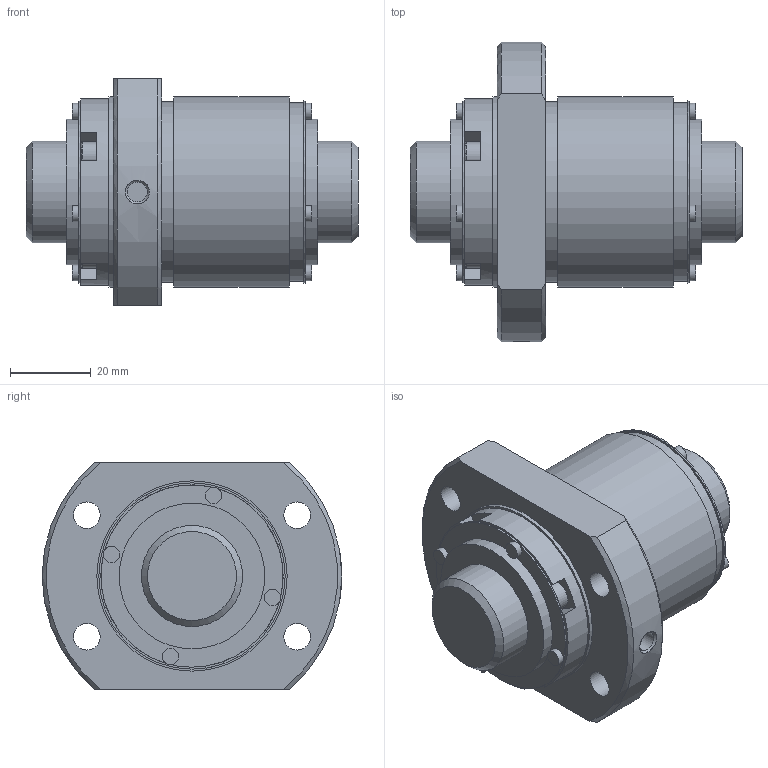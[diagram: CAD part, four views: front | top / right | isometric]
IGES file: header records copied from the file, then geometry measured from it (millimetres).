
Start section: Data from Parasolid IGES Translator 26.0.171, Copyright(c) 2006 Siemens PLM Software. All Rights Reserved.
Global section: file name: BLK2525-3.6ZZG1+82LC3_0_1300.igs; native system: By Siemens PLM Incorporated; preprocessor: XPlus GENERIC/IGES 26.0.171; author: Noname; organization: Noname; date: 20250116.070447; units: millimetre
Bounding box: 82 x 74 x 56 mm (x, y, z)
Surface area: 31118.7 mm2 (no closed solid volume)
Topology: 0 solids, 0 shells, 164 faces, 756 edges, 693 vertices
Faces by surface type: extrusion 103, revolution 61
